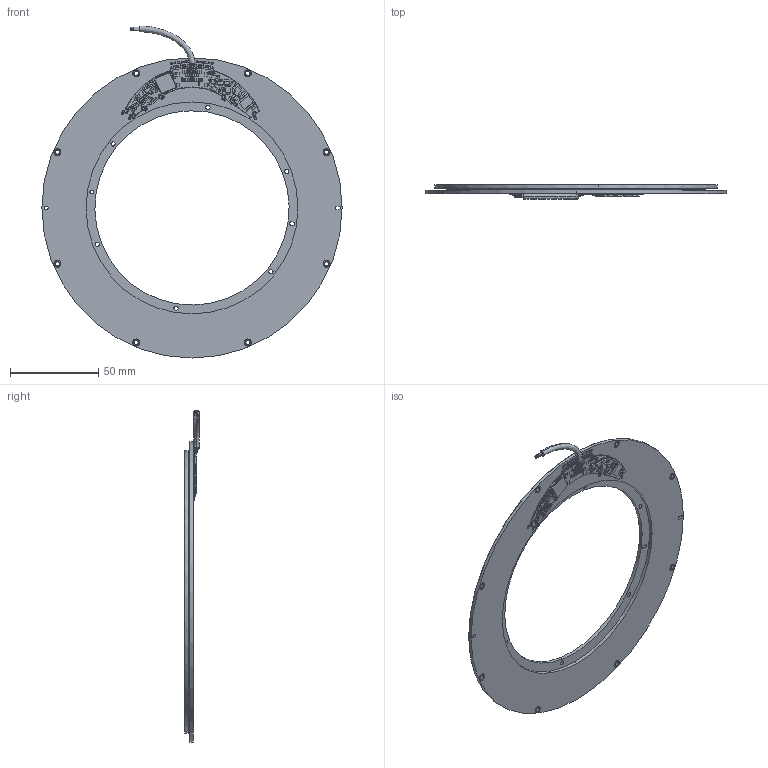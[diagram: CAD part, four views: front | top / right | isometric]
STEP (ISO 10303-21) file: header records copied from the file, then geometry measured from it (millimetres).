
FILE_DESCRIPTION (( 'STEP AP214' ), '1' );
FILE_NAME ('VLP-170.STEP', '2025-03-24T07:45:40', ( '' ), ( '' ), 'SwSTEP 2.0', 'SolidWorks 2022', '' );
FILE_SCHEMA (( 'AUTOMOTIVE_DESIGN' ));
Length unit declared in the file: millimetre
Products named in the file (5): PB-00149; PB-00456-00; VLP-QR cable; PB-00148; VLP-170
Assembly tree (4 placements, depth 2):
  VLP-170
    PB-00148
    PB-00456-00
    PB-00149
    VLP-QR cable
Bounding box: 170 x 8.4 x 188 mm (x, y, z)
Volume: 44432.2 mm3; surface area: 51260 mm2
Topology: 109 solids, 109 shells, 8652 faces, 21566 edges, 14665 vertices
Faces by surface type: plane 5166, cylinder 3214, bspline 272
Entity records: 407406 total; most frequent: CARTESIAN_POINT 101408, DIRECTION 43849, ORIENTED_EDGE 43132, EDGE_CURVE 21566, AXIS2_PLACEMENT_3D 14908, VERTEX_POINT 14665, LINE 14033, VECTOR 14033
